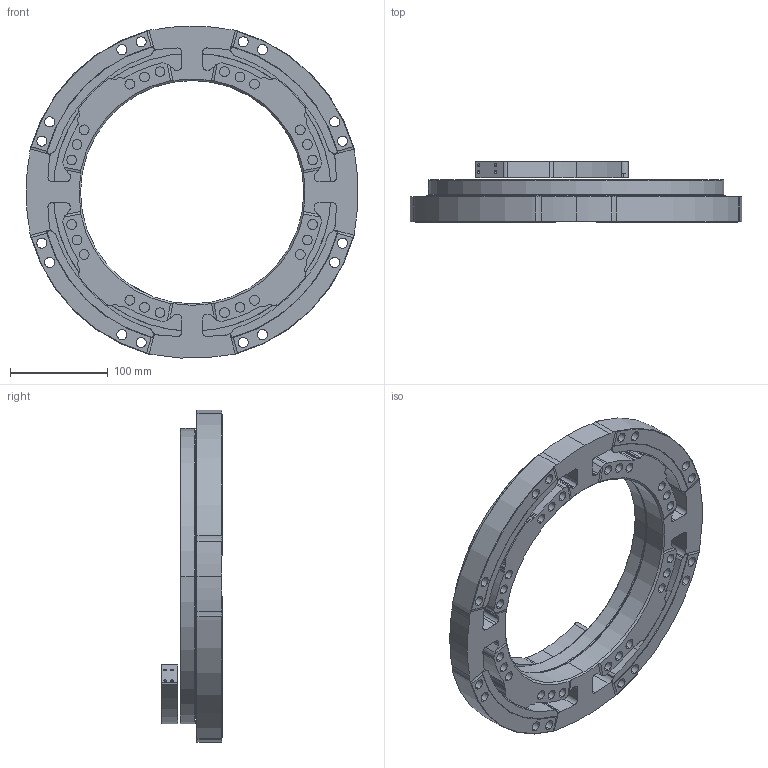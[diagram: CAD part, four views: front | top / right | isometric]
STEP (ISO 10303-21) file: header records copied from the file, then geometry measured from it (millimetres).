
FILE_DESCRIPTION (( 'STEP AP214' ), '1' );
FILE_NAME ('1018870.STEP', '2022-03-25T17:33:23', ( '' ), ( '' ), 'SwSTEP 2.0', 'SolidWorks 2021', '' );
FILE_SCHEMA (( 'AUTOMOTIVE_DESIGN' ));
Length unit declared in the file: inch
Products named in the file (1): 1018870
Bounding box: 339.74 x 62.23 x 339.74 mm (x, y, z)
Volume: 1601768.3 mm3; surface area: 297093.7 mm2
Topology: 2 solids, 2 shells, 639 faces, 1741 edges, 1130 vertices
Faces by surface type: cylinder 406, plane 165, cone 60, torus 8
Entity records: 20814 total; most frequent: CARTESIAN_POINT 4043, DIRECTION 3721, ORIENTED_EDGE 3434, EDGE_CURVE 1717, AXIS2_PLACEMENT_3D 1492, VERTEX_POINT 1130, CIRCLE 852, EDGE_LOOP 751
